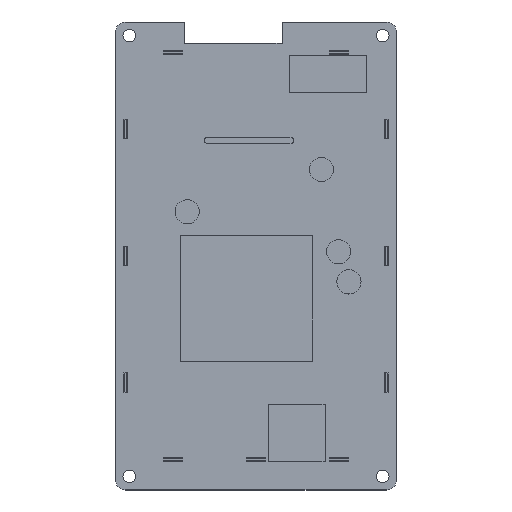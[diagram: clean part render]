
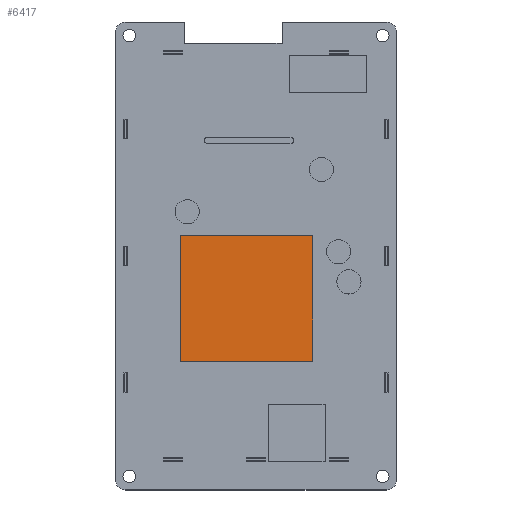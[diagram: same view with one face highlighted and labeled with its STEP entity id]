
A CAD part, top view. The second image highlights one B-rep face of the part: STEP entity #6417.
In plain terms, the highlighted planar face has unit normal (0, 0, 1).
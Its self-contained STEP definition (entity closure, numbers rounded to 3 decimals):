
#2120=DIRECTION('',(-1.,0.,0.));
#2121=VECTOR('',#2120,34.417);
#2122=CARTESIAN_POINT('',(14.783,5.334,5.2));
#2123=LINE('',#2122,#2121);
#2124=DIRECTION('',(0.,1.,0.));
#2125=VECTOR('',#2124,32.766);
#2126=CARTESIAN_POINT('',(14.783,-27.432,5.2));
#2127=LINE('',#2126,#2125);
#2128=DIRECTION('',(1.,0.,0.));
#2129=VECTOR('',#2128,34.417);
#2130=CARTESIAN_POINT('',(-19.634,-27.432,5.2));
#2131=LINE('',#2130,#2129);
#2132=DIRECTION('',(0.,-1.,0.));
#2133=VECTOR('',#2132,32.766);
#2134=CARTESIAN_POINT('',(-19.634,5.334,5.2));
#2135=LINE('',#2134,#2133);
#2540=CARTESIAN_POINT('',(14.783,5.334,5.2));
#2541=CARTESIAN_POINT('',(-19.634,5.334,5.2));
#2542=VERTEX_POINT('',#2540);
#2543=VERTEX_POINT('',#2541);
#2544=CARTESIAN_POINT('',(-19.634,-27.432,5.2));
#2545=VERTEX_POINT('',#2544);
#2546=CARTESIAN_POINT('',(14.783,-27.432,5.2));
#2547=VERTEX_POINT('',#2546);
#6406=CARTESIAN_POINT('',(-36.576,58.42,5.2));
#6407=DIRECTION('',(0.,0.,1.));
#6408=DIRECTION('',(0.,-1.,0.));
#6409=AXIS2_PLACEMENT_3D('',#6406,#6407,#6408);
#6410=PLANE('',#6409);
#6411=ORIENTED_EDGE('',*,*,#6358,.F.);
#6412=ORIENTED_EDGE('',*,*,#6373,.F.);
#6413=ORIENTED_EDGE('',*,*,#6387,.F.);
#6414=ORIENTED_EDGE('',*,*,#6400,.F.);
#6415=EDGE_LOOP('',(#6411,#6412,#6413,#6414));
#6416=FACE_OUTER_BOUND('',#6415,.F.);
#6358=EDGE_CURVE('',#2542,#2543,#2123,.T.);
#6373=EDGE_CURVE('',#2547,#2542,#2127,.T.);
#6387=EDGE_CURVE('',#2545,#2547,#2131,.T.);
#6400=EDGE_CURVE('',#2543,#2545,#2135,.T.);
#6417=ADVANCED_FACE('',(#6416),#6410,.T.);
